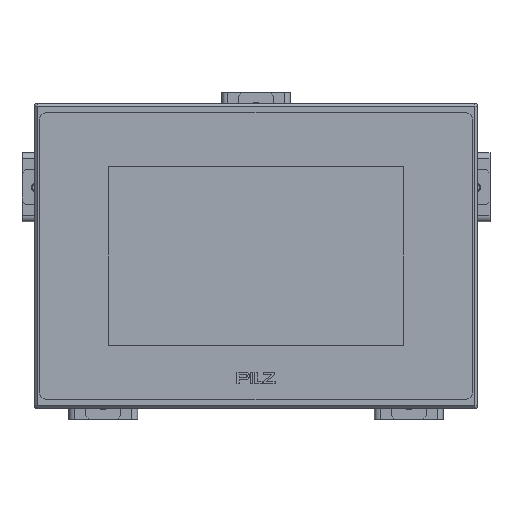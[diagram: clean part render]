
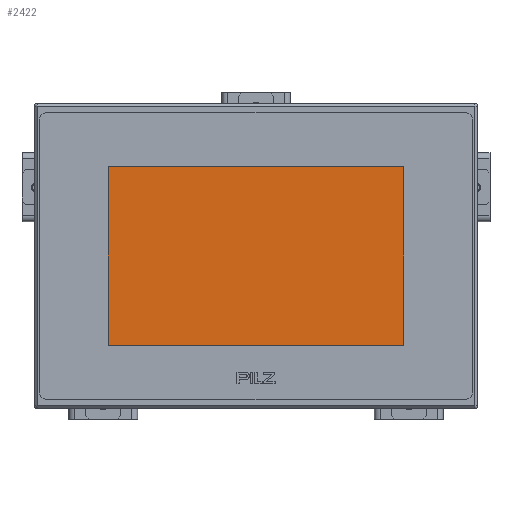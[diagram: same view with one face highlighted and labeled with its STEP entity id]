
A CAD part, front view. The second image highlights one B-rep face of the part: STEP entity #2422.
In plain terms, the highlighted planar face has unit normal (0, -1, 0).
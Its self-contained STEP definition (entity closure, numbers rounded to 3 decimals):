
#815=DIRECTION('',(0.,0.,-1.));
#816=VECTOR('',#815,93.5);
#817=CARTESIAN_POINT('',(-77.25,-6.,46.75));
#818=LINE('',#817,#816);
#822=DIRECTION('',(-1.,0.,0.));
#823=VECTOR('',#822,154.5);
#824=CARTESIAN_POINT('',(77.25,-6.,46.75));
#825=LINE('',#824,#823);
#829=DIRECTION('',(0.,0.,1.));
#830=VECTOR('',#829,93.5);
#831=CARTESIAN_POINT('',(77.25,-6.,-46.75));
#832=LINE('',#831,#830);
#836=DIRECTION('',(1.,0.,0.));
#837=VECTOR('',#836,154.5);
#838=CARTESIAN_POINT('',(-77.25,-6.,-46.75));
#839=LINE('',#838,#837);
#1645=CARTESIAN_POINT('',(-77.25,-6.,46.75));
#1646=CARTESIAN_POINT('',(-77.25,-6.,-46.75));
#1647=VERTEX_POINT('',#1645);
#1648=VERTEX_POINT('',#1646);
#1649=CARTESIAN_POINT('',(77.25,-6.,-46.75));
#1650=VERTEX_POINT('',#1649);
#1651=CARTESIAN_POINT('',(77.25,-6.,46.75));
#1652=VERTEX_POINT('',#1651);
#2411=CARTESIAN_POINT('',(0.,-6.,0.));
#2412=DIRECTION('',(0.,-1.,0.));
#2413=DIRECTION('',(1.,0.,0.));
#2414=AXIS2_PLACEMENT_3D('',#2411,#2412,#2413);
#2415=PLANE('',#2414);
#2416=ORIENTED_EDGE('',*,*,#2363,.F.);
#2417=ORIENTED_EDGE('',*,*,#2378,.F.);
#2418=ORIENTED_EDGE('',*,*,#2392,.F.);
#2419=ORIENTED_EDGE('',*,*,#2405,.F.);
#2420=EDGE_LOOP('',(#2416,#2417,#2418,#2419));
#2421=FACE_OUTER_BOUND('',#2420,.F.);
#2363=EDGE_CURVE('',#1647,#1648,#818,.T.);
#2378=EDGE_CURVE('',#1652,#1647,#825,.T.);
#2392=EDGE_CURVE('',#1650,#1652,#832,.T.);
#2405=EDGE_CURVE('',#1648,#1650,#839,.T.);
#2422=ADVANCED_FACE('',(#2421),#2415,.T.);
